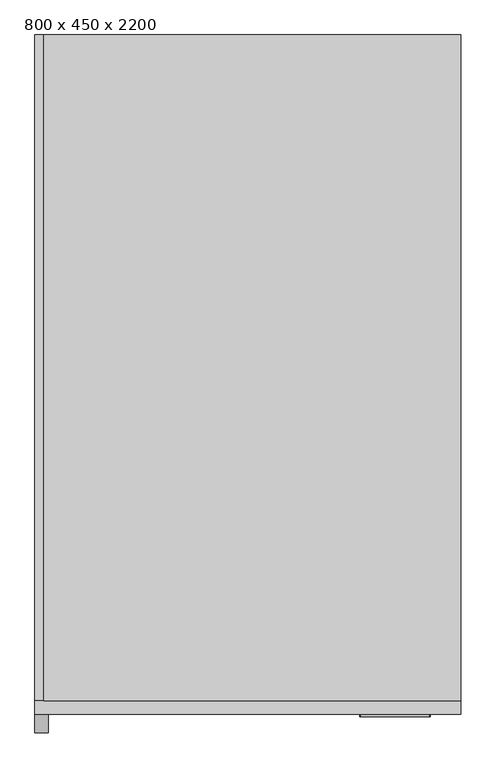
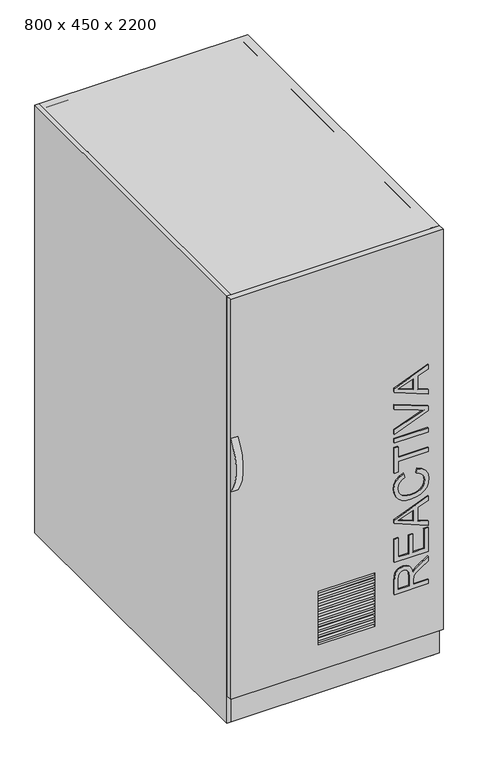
"""IFC4 building model written with IfcOpenShell, lengths in millimetres: furniture geometry, Bateria_condensaors C250 : 800 x 450 x 2200."""

from ifc_helpers import new_model, si_unit, point, frame, frame_2d, origin, origin_with_axes, place, context, project, spatial, polyline, circle_curve, trimmed, segment, composite_curve, outline, extrude, source, transform, mapped, element, save


def furniture_800_x_450_x_2200_3f44f85e(model_context):
    return source(origin(), model_context, "Body", "SweptSolid", [
        extrude(outline(polyline([(371.3116037, 478.7705349), (390.1471618, 478.7705349), (390.1471618, 412.8460814), (412.8822691, 412.8460814), (423.8083644, 413.508269), (432.7662909, 417.0951184), (442.7174989, 426.8623854), (456.8809557, 447.5373535), (476.4890661, 478.7705349), (498.3780448, 478.7705349), (473.2517045, 437.9356334), (457.9846017, 418.5482523), (447.2792357, 410.4916366), (465.8342838, 405.4976385), (478.8251167, 396.4753326), (486.4816608, 384.1696798), (489.0338421, 369.3256413), (487.4933363, 357.3924691), (482.8718187, 346.5353517), (475.6705286, 337.7797603), (466.3907053, 332.1511657), (436.2427758, 328.0860697), (371.3116037, 328.0860697), (371.3116037, 478.7705349)]), holes=[polyline([(390.1471618, 394.0105232), (390.1471618, 346.9216278), (437.0521162, 346.9216278), (451.9559355, 348.5495057), (462.2336388, 353.4331391), (468.2071227, 360.8367643), (470.198284, 370.0246171), (466.0228233, 382.8085165), (453.8091411, 391.3433788), (432.3064385, 394.0105232), (390.1471618, 394.0105232)])]), frame((0.0, -5.0, 0.0), z_axis=(0.0, 1.0, 0.0), x_axis=(0.0, 0.0, 1.0)), (0.0, 0.0, 1.0), 5.0),
        extrude(outline(polyline([(521.9960689, 478.7705349), (632.654973, 478.7705349), (632.654973, 459.9349768), (540.831627, 459.9349768), (540.831627, 410.4916366), (625.5916387, 410.4916366), (625.5916387, 391.6560784), (540.831627, 391.6560784), (540.831627, 346.9216278), (630.3005283, 346.9216278), (630.3005283, 328.0860697), (521.9960689, 328.0860697), (521.9960689, 478.7705349)])), frame((0.0, -5.0, 0.0), z_axis=(0.0, 1.0, 0.0), x_axis=(0.0, 0.0, 1.0)), (0.0, 0.0, 1.0), 5.0),
        extrude(outline(polyline([(643.3603391, 478.7705349), (663.262755, 478.7705349), (680.4796324, 431.6816395), (742.541325, 431.6816395), (759.7949906, 478.7705349), (779.6974065, 478.7705349), (719.5487003, 328.0860697), (703.5090453, 328.0860697), (643.3603391, 478.7705349)]), holes=[polyline([(687.3958139, 412.8460814), (702.1478819, 372.5630029), (711.5288728, 346.9216278), (722.0870861, 375.8003645), (735.6619317, 412.8460814), (687.3958139, 412.8460814)])]), frame((0.0, -5.0, 0.0), z_axis=(0.0, 1.0, 0.0), x_axis=(0.0, 0.0, 1.0)), (0.0, 0.0, 1.0), 5.0),
        extrude(outline(polyline([(905.7705662, 425.2069164), (899.6775207, 441.3385419), (889.7860936, 452.9452188), (876.684896, 459.9533709), (860.9625392, 462.2894215), (847.4750656, 460.5741717), (834.9716763, 455.4284223), (824.5422217, 446.8153851), (817.2765523, 434.6982719), (813.0137197, 419.6518983), (811.5927755, 402.2510799), (816.3936355, 374.2552601), (822.9557306, 362.0599719), (833.0402958, 352.6237988), (846.3300329, 346.581337), (862.5076436, 344.5671831), (876.5423417, 346.3836004), (887.9650777, 351.8328525), (896.8862161, 361.2552301), (903.4161215, 374.9910241), (922.2516796, 370.5028637), (913.932948, 351.5937292), (900.9697062, 337.4670606), (883.8953831, 328.6654838), (863.2434076, 325.7316249), (844.3158789, 327.9986977), (827.0438193, 334.7999161), (812.4802908, 345.9697332), (801.6783557, 361.342602), (794.9875019, 380.3161159), (792.7572173, 402.2878681), (794.7299845, 423.1191861), (800.6482861, 442.5709466), (810.3419767, 459.1164393), (823.6409108, 471.228954), (840.9911454, 478.6509733), (862.8387374, 481.1249797), (884.3598341, 477.8554284), (902.2756873, 468.0467747), (915.9149123, 452.0117183), (924.6061244, 430.0629587), (905.7705662, 425.2069164)])), frame((0.0, -5.0, 0.0), z_axis=(0.0, 1.0, 0.0), x_axis=(0.0, 0.0, 1.0)), (0.0, 0.0, 1.0), 5.0),
        extrude(outline(polyline([(988.1761332, 478.7705349), (1007.0116913, 478.7705349), (1007.0116913, 346.9216278), (1056.4550315, 346.9216278), (1056.4550315, 328.0860697), (938.732793, 328.0860697), (938.732793, 346.9216278), (988.1761332, 346.9216278), (988.1761332, 478.7705349)])), frame((0.0, -5.0, 0.0), z_axis=(0.0, 1.0, 0.0), x_axis=(0.0, 0.0, 1.0)), (0.0, 0.0, 1.0), 5.0),
        extrude(outline(polyline([(478.7705349, -5.0), (328.0860697, -5.0), (328.0860697, 0.0), (478.7705349, 0.0), (478.7705349, -5.0)])), frame((0.0, 0.0, 1079.9994792), z_axis=(0.0, 0.0, 1.0), x_axis=(1.0, 0.0, 0.0)), (0.0, 0.0, 1.0), 18.8355582),
        extrude(outline(polyline([(1257.8704238, 478.7705349), (1277.7728398, 478.7705349), (1294.9897171, 431.6816395), (1357.0514097, 431.6816395), (1374.3050753, 478.7705349), (1394.2074912, 478.7705349), (1334.058785, 328.0860697), (1318.01913, 328.0860697), (1257.8704238, 478.7705349)]), holes=[polyline([(1301.9058986, 412.8460814), (1316.6579667, 372.5630029), (1326.0389575, 346.9216278), (1336.5971708, 375.8003645), (1350.1720164, 412.8460814), (1301.9058986, 412.8460814)])]), frame((0.0, -5.0, 0.0), z_axis=(0.0, 1.0, 0.0), x_axis=(0.0, 0.0, 1.0)), (0.0, 0.0, 1.0), 5.0),
        extrude(outline(polyline([(1181.019875, 478.7705349), (1200.4808326, 478.7705349), (1257.907212, 328.0860697), (1237.7472787, 328.0860697), (1197.5009884, 436.6480465), (1189.4811609, 461.1121991), (1181.3509688, 436.6480465), (1141.2150432, 328.0860697), (1121.0551098, 328.0860697), (1181.019875, 478.7705349)])), frame((0.0, -5.0, 0.0), z_axis=(0.0, 1.0, 0.0), x_axis=(0.0, 0.0, 1.0)), (0.0, 0.0, 1.0), 5.0),
        extrude(outline(polyline([(548.3182922, 30.0), (-371.6817078, 30.0), (-371.6817078, 50.0), (548.3182922, 50.0), (548.3182922, 30.0)])), origin_with_axes(), (0.0, 0.0, 1.0), 130.0),
        extrude(outline(composite_curve([segment(trimmed(circle_curve(frame_2d((164.9755874, 1225.0)), 206.9829568), [point((0.0, 1100.0))], [point((0.0, 1350.0))], False, "CARTESIAN"), True, "CONTINUOUS"), segment(polyline([(0.0, 1350.0), (0.0, 1100.0)]), True, "CONTINUOUS")], self_intersect=False)), frame((-391.6817078, 0.0, 0.0), z_axis=(1.0, 0.0, 0.0), x_axis=(0.0, 1.0, 0.0)), (0.0, 0.0, 1.0), 30.0),
        extrude(outline(polyline([(245.0, 0.0), (-5.0, 0.0), (-5.0, 15.0), (245.0, 15.0), (245.0, 0.0)])), frame((0.0, 0.0, 284.4444444), z_axis=(0.0, 0.0, 1.0), x_axis=(1.0, 0.0, 0.0)), (0.0, 0.0, 1.0), 10.0),
        extrude(outline(polyline([(245.0, 0.0), (-5.0, 0.0), (-5.0, 15.0), (245.0, 15.0), (245.0, 0.0)])), frame((0.0, 0.0, 308.8888889), z_axis=(0.0, 0.0, 1.0), x_axis=(1.0, 0.0, 0.0)), (0.0, 0.0, 1.0), 10.0),
        extrude(outline(polyline([(245.0, 0.0), (-5.0, 0.0), (-5.0, 15.0), (245.0, 15.0), (245.0, 0.0)])), frame((0.0, 0.0, 333.3333333), z_axis=(0.0, 0.0, 1.0), x_axis=(1.0, 0.0, 0.0)), (0.0, 0.0, 1.0), 10.0),
        extrude(outline(polyline([(245.0, 0.0), (-5.0, 0.0), (-5.0, 15.0), (245.0, 15.0), (245.0, 0.0)])), frame((0.0, 0.0, 357.7777778), z_axis=(0.0, 0.0, 1.0), x_axis=(1.0, 0.0, 0.0)), (0.0, 0.0, 1.0), 10.0),
        extrude(outline(polyline([(245.0, 0.0), (-5.0, 0.0), (-5.0, 15.0), (245.0, 15.0), (245.0, 0.0)])), frame((0.0, 0.0, 382.2222222), z_axis=(0.0, 0.0, 1.0), x_axis=(1.0, 0.0, 0.0)), (0.0, 0.0, 1.0), 10.0),
        extrude(outline(polyline([(245.0, 0.0), (-5.0, 0.0), (-5.0, 15.0), (245.0, 15.0), (245.0, 0.0)])), frame((0.0, 0.0, 406.6666667), z_axis=(0.0, 0.0, 1.0), x_axis=(1.0, 0.0, 0.0)), (0.0, 0.0, 1.0), 10.0),
        extrude(outline(polyline([(245.0, 0.0), (-5.0, 0.0), (-5.0, 15.0), (245.0, 15.0), (245.0, 0.0)])), frame((0.0, 0.0, 431.1111111), z_axis=(0.0, 0.0, 1.0), x_axis=(1.0, 0.0, 0.0)), (0.0, 0.0, 1.0), 10.0),
        extrude(outline(polyline([(245.0, 0.0), (-5.0, 0.0), (-5.0, 15.0), (245.0, 15.0), (245.0, 0.0)])), frame((0.0, 0.0, 455.5555556), z_axis=(0.0, 0.0, 1.0), x_axis=(1.0, 0.0, 0.0)), (0.0, 0.0, 1.0), 10.0),
        extrude(outline(polyline([(245.0, 0.0), (-5.0, 0.0), (-5.0, 15.0), (245.0, 15.0), (245.0, 0.0)])), frame((0.0, 0.0, 260.0), z_axis=(0.0, 0.0, 1.0), x_axis=(1.0, 0.0, 0.0)), (0.0, 0.0, 1.0), 10.0),
        extrude(outline(polyline([(245.0, 0.0), (-5.0, 0.0), (-5.0, 15.0), (245.0, 15.0), (245.0, 0.0)])), frame((0.0, 0.0, 480.0), z_axis=(0.0, 0.0, 1.0), x_axis=(1.0, 0.0, 0.0)), (0.0, 0.0, 1.0), 10.0),
        extrude(outline(polyline([(548.3182922, 1500.0), (548.3182922, 30.0), (-371.6817078, 30.0), (-371.6817078, 1500.0), (548.3182922, 1500.0)])), frame((0.0, 0.0, 1980.0), z_axis=(0.0, 0.0, 1.0), x_axis=(1.0, 0.0, 0.0)), (0.0, 0.0, 1.0), 20.0),
        extrude(outline(polyline([(2000.0, 548.3182922), (2000.0, -391.6817078), (130.0, -391.6817078), (130.0, 548.3182922), (2000.0, 548.3182922)]), holes=[polyline([(500.0, 245.0), (250.0, 245.0), (250.0, -5.0), (500.0, -5.0), (500.0, 245.0)])]), frame((0.0, 0.0, 0.0), z_axis=(0.0, 1.0, 0.0), x_axis=(0.0, 0.0, 1.0)), (0.0, 0.0, 1.0), 30.0),
        extrude(outline(polyline([(548.3182922, 1500.0), (548.3182922, 30.0), (510.8506718, 30.0), (510.8506718, 1465.7665627), (-371.6817078, 1465.7665627), (-371.6817078, 30.0), (-391.6817078, 30.0), (-391.6817078, 1500.0), (548.3182922, 1500.0)])), origin_with_axes(), (0.0, 0.0, 1.0), 2000.0),
    ])


if __name__ == "__main__":
    model = new_model("IFC4")
    model_context = context("Model", 3, world=origin())
    ifc_project = project(units=[si_unit("LENGTHUNIT", "METRE", prefix="MILLI")], contexts=[model_context])
    site = spatial("IfcSite", under=ifc_project)
    building = spatial("IfcBuilding", under=site)
    placement = place(None, origin())
    furniture_800_x_450_x_2200_shape = furniture_800_x_450_x_2200_3f44f85e(model_context)
    element("IfcFurniture", 1, ObjectType="Bateria_condensaors C250 : 800 x 450 x 2200", at=placement, inside=building, context=model_context, shape_type="MappedRepresentation", body=[
        mapped(furniture_800_x_450_x_2200_shape, transform((0.0, 0.0, 0.0), x_axis=(1.0, 0.0, 0.0), y_axis=(0.0, 1.0, 0.0), z_axis=(0.0, 0.0, 1.0))),
    ])
    save(model, "model.ifc")
